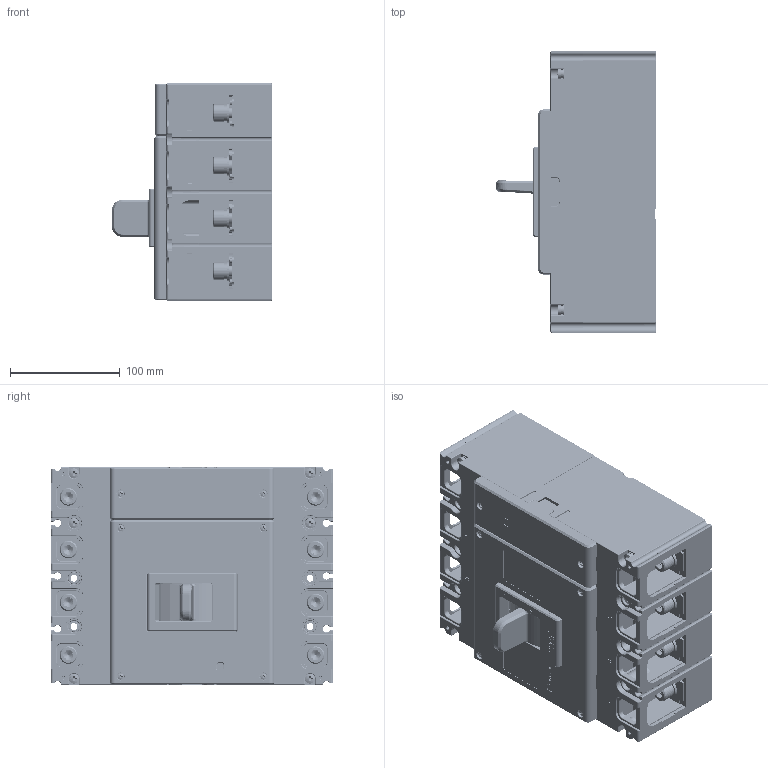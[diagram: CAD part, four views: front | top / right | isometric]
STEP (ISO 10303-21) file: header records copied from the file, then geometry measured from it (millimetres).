
FILE_DESCRIPTION((''),'2;1');
FILE_NAME('CDM6H-630L_M_R-4300_ASM','2022-12-05T',('ling.zeng'),(''),'PRO/ENGINEER BY PARAMETRIC TECHNOLOGY CORPORATION, 2015440','PRO/ENGINEER BY PARAMETRIC TECHNOLOGY CORPORATION, 2015440','');
FILE_SCHEMA(('CONFIG_CONTROL_DESIGN'));
Products named in the file (76): PRT0178_1_AF0; PRT0179_1; ASM0040_ASM_1_AF0_ASM; PRT0180_1; PRT0181_1_AF0; PRT0182_1; PRT0183_1; PRT0184_1; ASM0041_ASM_1_ASM; PRT0188_1; PRT0189_1; MANIFOLD_SOLID_BREP_154372_1; MANIFOLD_SOLID_BREP_154574_1; ASM0044_ASM_1_ASM; PRT0190_1; MANIFOLD_SOLID_BREP_155279_1; MANIFOLD_SOLID_BREP_155429_1; ASM0045_ASM_1_ASM; MANIFOLD_SOLID_BREP_156112_1; MANIFOLD_SOLID_BREP_156275_1; ASM0046_ASM_1_ASM; ASM0042_ASM_1_ASM; 5551072100_ASM_2_ASM_1; 8205068400_2_1; 8585064800_1_1; MANIFOLD_SOLID_BREP_157376_1; MANIFOLD_SOLID_BREP_157526__AF0; 85050244P02_2_ASM_1_AF0_ASM; MANIFOLD_SOLID_BREP_157526__AF1; 85050244P02_2_ASM_1_AF1_ASM; 5DLX_551_719_ASM_1_ASM_1_AF0_ASM; 5DLX_551_718_ASM_1_ASM_1_AF0_ASM; PRT0230_1; PRT0231_1; PRT0232_1; ASM0052_ASM_1_ASM; PRT0233_1; PRT0003; PRT0004; ASM0053_ASM_1_ASM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
Assembly tree (156 placements, depth 8):
  CDM6H-630L_M_R-4300_ASM
    CDM3V-630F-4300-630A_ASM_1_AF0_ASM
      2253026100_ASM_1_ASM_1_AF0_ASM
        5295009000_ASM_1_ASM_1_AF0_ASM
          ASM0040_ASM_1_AF0_ASM
            PRT0178_1_AF0
            PRT0179_1  x8
          PRT0180_1  x8
          ASM0041_ASM_1_ASM  x4
            PRT0181_1_AF0
            PRT0182_1
            PRT0183_1
            PRT0184_1
          5DLX_551_718_ASM_1_ASM_1_AF0_ASM
            ASM0042_ASM_1_ASM  x3
              PRT0188_1
              PRT0189_1
              ASM0044_ASM_1_ASM
                MANIFOLD_SOLID_BREP_154372_1
                MANIFOLD_SOLID_BREP_154574_1
              PRT0190_1
              ASM0045_ASM_1_ASM
                MANIFOLD_SOLID_BREP_155279_1
                MANIFOLD_SOLID_BREP_155429_1
              ASM0046_ASM_1_ASM
                MANIFOLD_SOLID_BREP_156112_1
                MANIFOLD_SOLID_BREP_156275_1
            5DLX_551_719_ASM_1_ASM_1_AF0_ASM
              5551072100_ASM_2_ASM_1
              8205068400_2_1
              8585064800_1_1
              85050244P02_2_ASM_1_AF0_ASM
                MANIFOLD_SOLID_BREP_157376_1
                MANIFOLD_SOLID_BREP_157526__AF0
              85050244P02_2_ASM_1_AF1_ASM
                MANIFOLD_SOLID_BREP_157376_1
                MANIFOLD_SOLID_BREP_157526__AF1
          ASM0052_ASM_1_ASM  x19
            PRT0230_1
            PRT0231_1
            PRT0232_1
          ASM0053_ASM_1_ASM  x4
            PRT0233_1
            PRT0003
            PRT0004
          PRT0234_1  x4
        ASM0054_ASM_1_ASM  x8
          PRT0235_1
          PRT0236_1
          PRT0237_1
        PRT0243_1  x4
        PRT0244_1  x4
        ASM0056_ASM_1_ASM
          PRT0245_1
          PRT0246_1
          PRT0247_1
        PRT0248_1  x3
        PRT0249_1  x4
        ASM0057_ASM_1_ASM
          ASM0058_ASM_1_ASM
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Bounding box: 145.91 x 257 x 198 mm (x, y, z)
Volume: 1939544 mm3; surface area: 987794.2 mm2
Topology: 245 solids, 339 shells, 12229 faces, 31817 edges, 20220 vertices
Faces by surface type: plane 6914, cylinder 3509, torus 663, cone 507, sphere 239, extrusion 221, bspline 176
Entity records: 294963 total; most frequent: CARTESIAN_POINT 69754, ORIENTED_EDGE 47252, DIRECTION 46130, EDGE_CURVE 23664, VECTOR 16392, LINE 16171, VERTEX_POINT 15206, AXIS2_PLACEMENT_3D 14869
